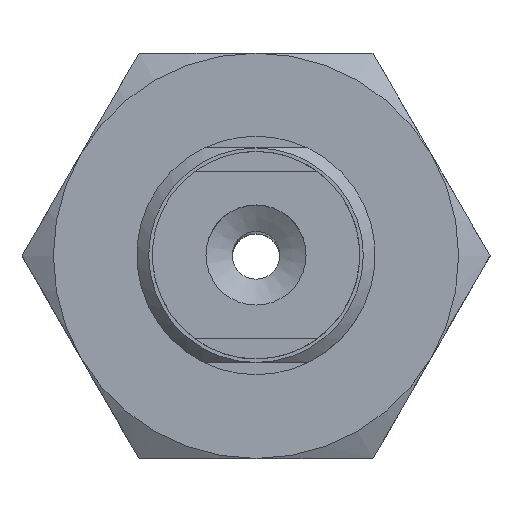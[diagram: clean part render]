
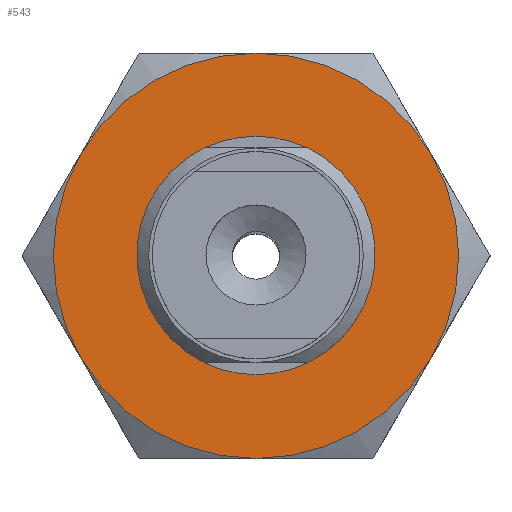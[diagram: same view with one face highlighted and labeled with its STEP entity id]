
A CAD part, top view. The second image highlights one B-rep face of the part: STEP entity #543.
In plain terms, the highlighted planar face has unit normal (0, 0, 1).
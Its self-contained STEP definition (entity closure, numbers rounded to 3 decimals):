
#543=ADVANCED_FACE('',(#764,#765),#766,.T.);
#764=FACE_BOUND('',#1160,.T.);
#765=FACE_OUTER_BOUND('',#1161,.T.);
#766=PLANE('',#1162);
#1160=EDGE_LOOP('',(#1716));
#1161=EDGE_LOOP('',(#1717,#1718,#1719,#1720,#1721,#1722));
#1162=AXIS2_PLACEMENT_3D('',#1723,#1724,#1725);
#1716=ORIENTED_EDGE('',*,*,#2716,.F.);
#1717=ORIENTED_EDGE('',*,*,#2717,.F.);
#1718=ORIENTED_EDGE('',*,*,#2710,.F.);
#1719=ORIENTED_EDGE('',*,*,#2686,.F.);
#1720=ORIENTED_EDGE('',*,*,#2689,.F.);
#1721=ORIENTED_EDGE('',*,*,#2718,.F.);
#1722=ORIENTED_EDGE('',*,*,#2719,.F.);
#1723=CARTESIAN_POINT('',(-9.815,-8.5,4.0));
#1724=DIRECTION('',(0.0,0.0,1.0));
#1725=DIRECTION('',(1.0,0.0,0.0));
#2686=EDGE_CURVE('',#3039,#3040,#3041,.T.);
#2689=EDGE_CURVE('',#3045,#3039,#3046,.T.);
#2710=EDGE_CURVE('',#3040,#3080,#3081,.T.);
#2716=EDGE_CURVE('',#3089,#3089,#3090,.T.);
#2717=EDGE_CURVE('',#3080,#3091,#3092,.T.);
#2718=EDGE_CURVE('',#3093,#3045,#3094,.T.);
#2719=EDGE_CURVE('',#3091,#3093,#3095,.T.);
#3039=VERTEX_POINT('',#3685);
#3040=VERTEX_POINT('',#3686);
#3041=CIRCLE('',#3687,8.5);
#3045=VERTEX_POINT('',#3699);
#3046=CIRCLE('',#3700,8.5);
#3080=VERTEX_POINT('',#3780);
#3081=CIRCLE('',#3781,8.5);
#3089=VERTEX_POINT('',#3806);
#3090=CIRCLE('',#3807,4.5);
#3091=VERTEX_POINT('',#3808);
#3092=CIRCLE('',#3809,8.5);
#3093=VERTEX_POINT('',#3810);
#3094=CIRCLE('',#3811,8.5);
#3095=CIRCLE('',#3812,8.5);
#3685=CARTESIAN_POINT('',(7.361,4.25,4.0));
#3686=CARTESIAN_POINT('',(7.361,-4.25,4.0));
#3687=AXIS2_PLACEMENT_3D('',#4538,#4539,#4540);
#3699=CARTESIAN_POINT('',(0.,8.5,4.0));
#3700=AXIS2_PLACEMENT_3D('',#4541,#4542,#4543);
#3780=CARTESIAN_POINT('',(0.,-8.5,4.0));
#3781=AXIS2_PLACEMENT_3D('',#4567,#4568,#4569);
#3806=CARTESIAN_POINT('',(0.0,-4.5,4.0));
#3807=AXIS2_PLACEMENT_3D('',#4571,#4572,#4573);
#3808=CARTESIAN_POINT('',(-7.361,-4.25,4.0));
#3809=AXIS2_PLACEMENT_3D('',#4574,#4575,#4576);
#3810=CARTESIAN_POINT('',(-7.361,4.25,4.0));
#3811=AXIS2_PLACEMENT_3D('',#4577,#4578,#4579);
#3812=AXIS2_PLACEMENT_3D('',#4580,#4581,#4582);
#4538=CARTESIAN_POINT('',(0.,0.,4.0));
#4539=DIRECTION('',(0.,0.,-1.0));
#4540=DIRECTION('',(0.866,0.5,0.));
#4541=CARTESIAN_POINT('',(0.,0.,4.0));
#4542=DIRECTION('',(0.,0.,-1.0));
#4543=DIRECTION('',(0.866,0.5,0.));
#4567=CARTESIAN_POINT('',(0.,0.,4.0));
#4568=DIRECTION('',(0.,0.,-1.0));
#4569=DIRECTION('',(0.866,0.5,0.));
#4571=CARTESIAN_POINT('',(0.0,0.0,4.0));
#4572=DIRECTION('',(0.0,0.,1.0));
#4573=DIRECTION('',(0.0,-1.0,0.));
#4574=CARTESIAN_POINT('',(0.,0.,4.0));
#4575=DIRECTION('',(0.,0.,-1.0));
#4576=DIRECTION('',(0.866,0.5,0.));
#4577=CARTESIAN_POINT('',(0.,0.,4.0));
#4578=DIRECTION('',(0.,0.,-1.0));
#4579=DIRECTION('',(0.866,0.5,0.));
#4580=CARTESIAN_POINT('',(0.,0.,4.0));
#4581=DIRECTION('',(0.,0.,-1.0));
#4582=DIRECTION('',(0.866,0.5,0.));
